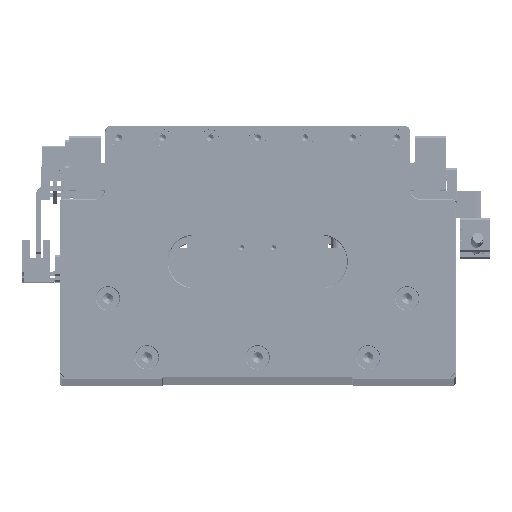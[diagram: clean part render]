
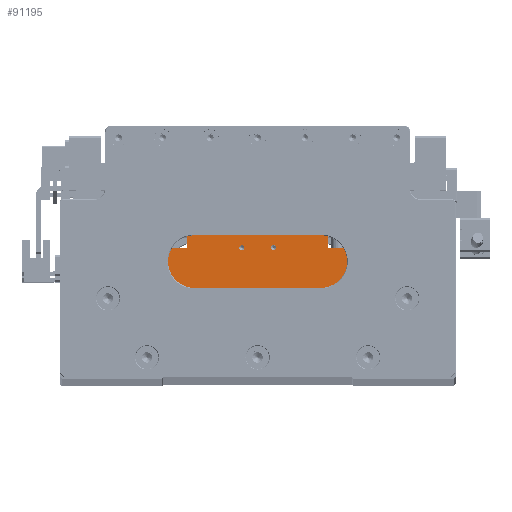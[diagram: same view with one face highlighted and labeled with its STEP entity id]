
A CAD part, top view. The second image highlights one B-rep face of the part: STEP entity #91195.
In plain terms, the highlighted planar face has unit normal (0, 0, 1).
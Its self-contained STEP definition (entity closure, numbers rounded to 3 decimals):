
#33 = VECTOR ( 'NONE', #38470, 1000. ) ;
#372 = AXIS2_PLACEMENT_3D ( 'NONE', #114270, #57599, #1222 ) ;
#1222 = DIRECTION ( 'NONE',  ( 1., 0., 0. ) ) ;
#2375 = VECTOR ( 'NONE', #10642, 1000. ) ;
#5172 = CARTESIAN_POINT ( 'NONE',  ( 0., -0.2, 90. ) ) ;
#6305 = VERTEX_POINT ( 'NONE', #118293 ) ;
#8117 = CARTESIAN_POINT ( 'NONE',  ( 6.25, -8., 90. ) ) ;
#9160 = EDGE_CURVE ( 'NONE', #37634, #46304, #16964, .T. ) ;
#10642 = DIRECTION ( 'NONE',  ( 0., -1., 0. ) ) ;
#12403 = DIRECTION ( 'NONE',  ( 0., 0., 1. ) ) ;
#13653 = ORIENTED_EDGE ( 'NONE', *, *, #63442, .T. ) ;
#14607 = DIRECTION ( 'NONE',  ( -1., 0., 0. ) ) ;
#14944 = ORIENTED_EDGE ( 'NONE', *, *, #9160, .T. ) ;
#15405 = EDGE_CURVE ( 'NONE', #51125, #71037, #78464, .T. ) ;
#15601 = EDGE_CURVE ( 'NONE', #67237, #51125, #37318, .T. ) ;
#16265 = CIRCLE ( 'NONE', #71442, 1.25 ) ;
#16458 = LINE ( 'NONE', #61417, #60676 ) ;
#16964 = CIRCLE ( 'NONE', #372, 1.25 ) ;
#20229 = DIRECTION ( 'NONE',  ( -1., 0., 0. ) ) ;
#21150 = ORIENTED_EDGE ( 'NONE', *, *, #67112, .T. ) ;
#24316 = ORIENTED_EDGE ( 'NONE', *, *, #44288, .T. ) ;
#26451 = VERTEX_POINT ( 'NONE', #63527 ) ;
#27369 = LINE ( 'NONE', #114220, #2375 ) ;
#29061 = CARTESIAN_POINT ( 'NONE',  ( 7.5, -8., 90. ) ) ;
#30135 = PLANE ( 'NONE',  #53718 ) ;
#31502 = DIRECTION ( 'NONE',  ( 1., 0., 0. ) ) ;
#31630 = DIRECTION ( 'NONE',  ( 0., 0., -1. ) ) ;
#34334 = VECTOR ( 'NONE', #31502, 1000. ) ;
#34670 = VERTEX_POINT ( 'NONE', #65274 ) ;
#37318 = LINE ( 'NONE', #108986, #34334 ) ;
#37634 = VERTEX_POINT ( 'NONE', #76527 ) ;
#38470 = DIRECTION ( 'NONE',  ( -1., 0., 0. ) ) ;
#38579 = DIRECTION ( 'NONE',  ( 1., 0., 0. ) ) ;
#39908 = DIRECTION ( 'NONE',  ( 0., 1., 0. ) ) ;
#40375 = EDGE_LOOP ( 'NONE', ( #14944, #71408 ) ) ;
#40455 = VERTEX_POINT ( 'NONE', #105654 ) ;
#41283 = VECTOR ( 'NONE', #39908, 1000. ) ;
#41379 = ORIENTED_EDGE ( 'NONE', *, *, #82522, .T. ) ;
#41500 = LINE ( 'NONE', #5172, #88773 ) ;
#42095 = CARTESIAN_POINT ( 'NONE',  ( 44.8, -8., 90. ) ) ;
#43103 = VECTOR ( 'NONE', #20229, 1000. ) ;
#43277 = CARTESIAN_POINT ( 'NONE',  ( -45., -40., 90. ) ) ;
#43730 = VERTEX_POINT ( 'NONE', #47794 ) ;
#44288 = EDGE_CURVE ( 'NONE', #6305, #26451, #27369, .T. ) ;
#46304 = VERTEX_POINT ( 'NONE', #96139 ) ;
#47685 = CARTESIAN_POINT ( 'NONE',  ( 44.8, -40., 90. ) ) ;
#47794 = CARTESIAN_POINT ( 'NONE',  ( -45., -8., 90. ) ) ;
#47958 = EDGE_CURVE ( 'NONE', #100358, #40455, #66392, .T. ) ;
#49029 = CARTESIAN_POINT ( 'NONE',  ( -7.5, -8., 90. ) ) ;
#50098 = CIRCLE ( 'NONE', #114218, 1.25 ) ;
#51053 = EDGE_LOOP ( 'NONE', ( #109349, #117012 ) ) ;
#51125 = VERTEX_POINT ( 'NONE', #47685 ) ;
#53718 = AXIS2_PLACEMENT_3D ( 'NONE', #68871, #12403, #78375 ) ;
#56277 = VECTOR ( 'NONE', #57491, 1000. ) ;
#56544 = EDGE_CURVE ( 'NONE', #46304, #37634, #50098, .T. ) ;
#57491 = DIRECTION ( 'NONE',  ( 0., 1., 0. ) ) ;
#57599 = DIRECTION ( 'NONE',  ( 0., 0., -1. ) ) ;
#58478 = DIRECTION ( 'NONE',  ( 1., 0., 0. ) ) ;
#60676 = VECTOR ( 'NONE', #118070, 1000. ) ;
#61417 = CARTESIAN_POINT ( 'NONE',  ( -45., 0., 90. ) ) ;
#62683 = FACE_BOUND ( 'NONE', #40375, .T. ) ;
#63442 = EDGE_CURVE ( 'NONE', #40455, #6305, #41500, .T. ) ;
#63527 = CARTESIAN_POINT ( 'NONE',  ( -33.5, -8., 90. ) ) ;
#63604 = CARTESIAN_POINT ( 'NONE',  ( 33.5, -8., 90. ) ) ;
#65274 = CARTESIAN_POINT ( 'NONE',  ( 8.75, -8., 90. ) ) ;
#66392 = LINE ( 'NONE', #67916, #41283 ) ;
#66537 = CIRCLE ( 'NONE', #92867, 1.25 ) ;
#66562 = ORIENTED_EDGE ( 'NONE', *, *, #47958, .T. ) ;
#67112 = EDGE_CURVE ( 'NONE', #43730, #67237, #16458, .T. ) ;
#67219 = CARTESIAN_POINT ( 'NONE',  ( 0., -8., 90. ) ) ;
#67237 = VERTEX_POINT ( 'NONE', #43277 ) ;
#67622 = EDGE_CURVE ( 'NONE', #34670, #78765, #66537, .T. ) ;
#67916 = CARTESIAN_POINT ( 'NONE',  ( 33.5, 0., 90. ) ) ;
#68871 = CARTESIAN_POINT ( 'NONE',  ( 0., 0., 90. ) ) ;
#71037 = VERTEX_POINT ( 'NONE', #42095 ) ;
#71408 = ORIENTED_EDGE ( 'NONE', *, *, #56544, .T. ) ;
#71442 = AXIS2_PLACEMENT_3D ( 'NONE', #29061, #95131, #38579 ) ;
#71717 = EDGE_LOOP ( 'NONE', ( #41379, #21150, #79332, #83884, #92017, #66562, #13653, #24316 ) ) ;
#72251 = LINE ( 'NONE', #104504, #33 ) ;
#76527 = CARTESIAN_POINT ( 'NONE',  ( -6.25, -8., 90. ) ) ;
#78375 = DIRECTION ( 'NONE',  ( 1., 0., 0. ) ) ;
#78464 = LINE ( 'NONE', #114147, #56277 ) ;
#78765 = VERTEX_POINT ( 'NONE', #8117 ) ;
#79332 = ORIENTED_EDGE ( 'NONE', *, *, #15601, .T. ) ;
#79423 = EDGE_CURVE ( 'NONE', #71037, #100358, #72251, .T. ) ;
#82522 = EDGE_CURVE ( 'NONE', #26451, #43730, #121454, .T. ) ;
#83884 = ORIENTED_EDGE ( 'NONE', *, *, #15405, .T. ) ;
#87871 = FACE_OUTER_BOUND ( 'NONE', #71717, .T. ) ;
#88205 = CARTESIAN_POINT ( 'NONE',  ( 7.5, -8., 90. ) ) ;
#88773 = VECTOR ( 'NONE', #14607, 1000. ) ;
#91195 = ADVANCED_FACE ( 'NONE', ( #87871, #113029, #62683 ), #30135, .T. ) ;
#92017 = ORIENTED_EDGE ( 'NONE', *, *, #79423, .T. ) ;
#92867 = AXIS2_PLACEMENT_3D ( 'NONE', #88205, #31630, #97702 ) ;
#95131 = DIRECTION ( 'NONE',  ( 0., 0., -1. ) ) ;
#95722 = EDGE_CURVE ( 'NONE', #78765, #34670, #16265, .T. ) ;
#96139 = CARTESIAN_POINT ( 'NONE',  ( -8.75, -8., 90. ) ) ;
#97702 = DIRECTION ( 'NONE',  ( 1., 0., 0. ) ) ;
#100358 = VERTEX_POINT ( 'NONE', #63604 ) ;
#104504 = CARTESIAN_POINT ( 'NONE',  ( 0., -8., 90. ) ) ;
#105654 = CARTESIAN_POINT ( 'NONE',  ( 33.5, -0.2, 90. ) ) ;
#108986 = CARTESIAN_POINT ( 'NONE',  ( -45., -40., 90. ) ) ;
#109349 = ORIENTED_EDGE ( 'NONE', *, *, #67622, .T. ) ;
#113029 = FACE_BOUND ( 'NONE', #51053, .T. ) ;
#114147 = CARTESIAN_POINT ( 'NONE',  ( 44.8, 0., 90. ) ) ;
#114218 = AXIS2_PLACEMENT_3D ( 'NONE', #49029, #115148, #58478 ) ;
#114220 = CARTESIAN_POINT ( 'NONE',  ( -33.5, 0., 90. ) ) ;
#114270 = CARTESIAN_POINT ( 'NONE',  ( -7.5, -8., 90. ) ) ;
#115148 = DIRECTION ( 'NONE',  ( 0., 0., -1. ) ) ;
#117012 = ORIENTED_EDGE ( 'NONE', *, *, #95722, .T. ) ;
#118070 = DIRECTION ( 'NONE',  ( 0., -1., 0. ) ) ;
#118293 = CARTESIAN_POINT ( 'NONE',  ( -33.5, -0.2, 90. ) ) ;
#121454 = LINE ( 'NONE', #67219, #43103 ) ;
